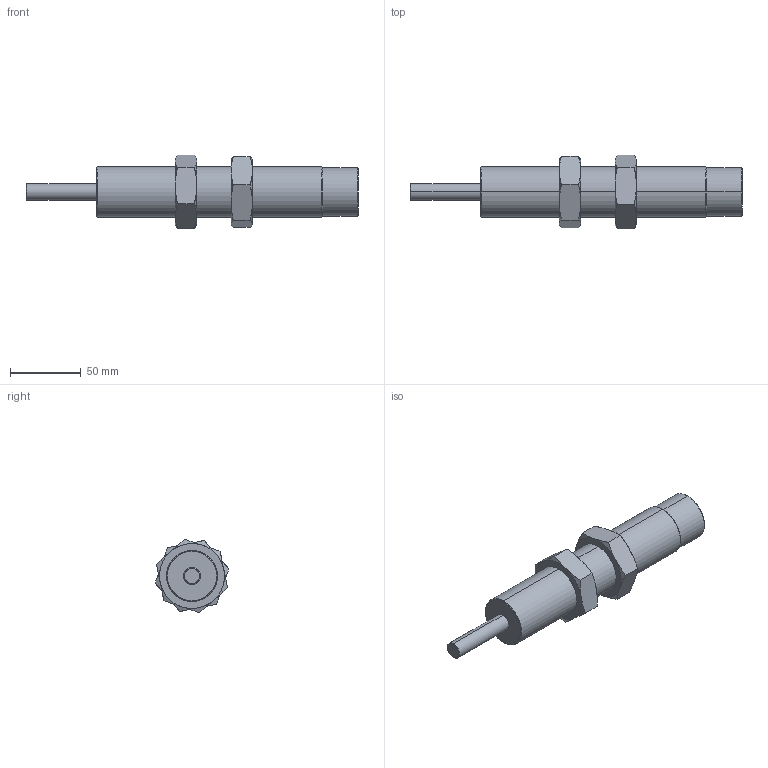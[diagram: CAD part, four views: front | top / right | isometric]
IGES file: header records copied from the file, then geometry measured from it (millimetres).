
Start section: SolidWorks IGES file using analytic representation for surfaces
Global section: file name: C:\Users\Sam Lin\Desktop\48\FSA-3650CC.IGS; native system: SolidWorks 2013; preprocessor: SolidWorks 2013; author: Sam Lin; date: 160317.152730; units: metre
Bounding box: 235 x 52.14 x 52.04 mm (x, y, z)
Surface area: 35752.3 mm2 (no closed solid volume)
Topology: 0 solids, 0 shells, 62 faces, 1224 edges, 1224 vertices
Faces by surface type: bspline 44, revolution 18
